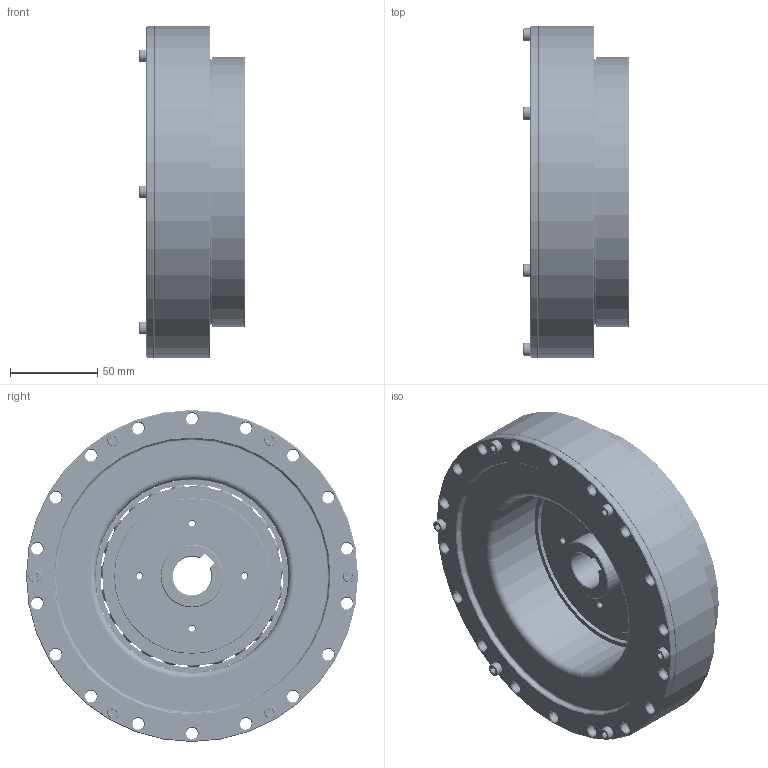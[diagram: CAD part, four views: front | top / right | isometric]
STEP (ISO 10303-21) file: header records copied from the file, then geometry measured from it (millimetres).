
FILE_DESCRIPTION(/* description */ (''),/* implementation_level */ '2;1');
FILE_NAME(/* name */ 'XBK45成品图.prt.stp',/* time_stamp */ '2022-07-23T10:31:33+08:00',/* author */ (''),/* organization */ (''),/* preprocessor_version */ 'ST-DEVELOPER v16',/* originating_system */ 'SIEMENS PLM Software NX 10.0',/* authorisation */ '');
FILE_SCHEMA (('CONFIG_CONTROL_DESIGN'));
Products named in the file (13): 45-柔性轴承保持架（日标）; XBS45-3-1凸轮; M4X14; XBK45-2柔轮; M4X12; M5X26; D1521707; XBK45-4-1-1销子; XBK45-1钢轮; XBK45-4-1内芯; XBK45-4-2外圈; 45-柔性轴承（日标）_MODEL; XBK45成品图
Assembly tree (20 placements, depth 3):
  XBK45成品图
    XBK45-4-2外圈
    XBK45-4-1内芯
    XBK45-1钢轮
    XBK45-4-1-1销子
    D1521707
    M5X26  x4
    M4X12
    XBK45-2柔轮
    M4X14  x6
    45-柔性轴承（日标）_MODEL
      45-柔性轴承保持架（日标）
    XBS45-3-1凸轮
Bounding box: 60.5 x 190 x 190 mm (x, y, z)
Volume: 715749.9 mm3; surface area: 327724.8 mm2
Topology: 43 solids, 44 shells, 987 faces, 2648 edges, 1748 vertices
Faces by surface type: plane 322, cylinder 283, cone 242, bspline 111, sphere 23, torus 6
Full cylindrical faces by diameter (mm): 3.3 x45, 4.5 x7, 5.5 x4, 6.6 x36, 7.22 x7, 8 x1, 8.72 x4, 9 x12, 9.5 x4, 36 x1, 77.5 x1, 79.48 x1, 81.5 x1, 83.5 x1, 85.18 x2, 87.5 x1, 89 x1, 102.5 x1, 104.83 x2, 110.43 x1, 110.434 x1, 112.534 x1, 114.6 x1, 115.8 x1, 116 x1, 120 x2, 122.6 x2, 128 x2, 136.6 x1, 152 x2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
Entity records: 144263 total; most frequent: CARTESIAN_POINT 126299, DIRECTION 3109, ORIENTED_EDGE 3086, EDGE_CURVE 1543, AXIS2_PLACEMENT_3D 1384, VERTEX_POINT 1235, EDGE_LOOP 1218, FACE_BOUND 899
